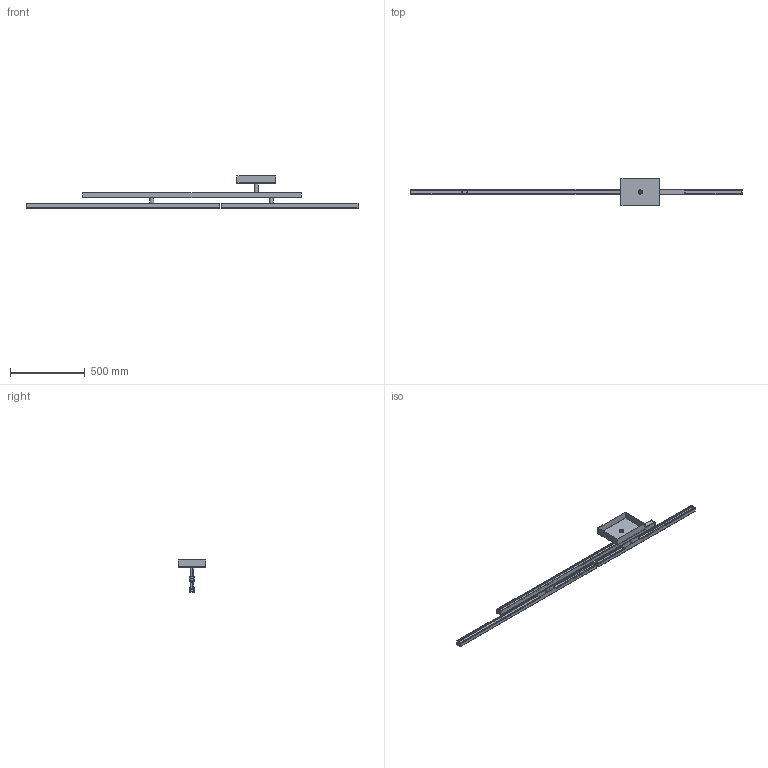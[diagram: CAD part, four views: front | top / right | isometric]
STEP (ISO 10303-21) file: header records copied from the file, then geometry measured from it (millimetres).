
FILE_DESCRIPTION(/* description */ (''),/* implementation_level */ '2;1');
FILE_NAME(/* name */ 'P064__.003',/* time_stamp */ '2024-08-30T14:18:35+02:00',/* author */ (''),/* organization */ (''),/* preprocessor_version */ 'ST-DEVELOPER v16.5',/* originating_system */ '',/* authorisation */ '');
FILE_SCHEMA (('AUTOMOTIVE_DESIGN'));
Length unit declared in the file: millimetre
Products named in the file (1): Document
Bounding box: 2218 x 186 x 214.2 mm (x, y, z)
Volume: 821578.6 mm3; surface area: 1217335 mm2
Topology: 14 solids, 14 shells, 895 faces, 2234 edges, 1338 vertices
Faces by surface type: plane 571, bspline 324
Entity records: 41099 total; most frequent: CARTESIAN_POINT 26856, ORIENTED_EDGE 4464, EDGE_CURVE 2232, B_SPLINE_CURVE_WITH_KNOTS 1597, VERTEX_POINT 1338, EDGE_LOOP 942, ADVANCED_FACE 895, FACE_OUTER_BOUND 895
